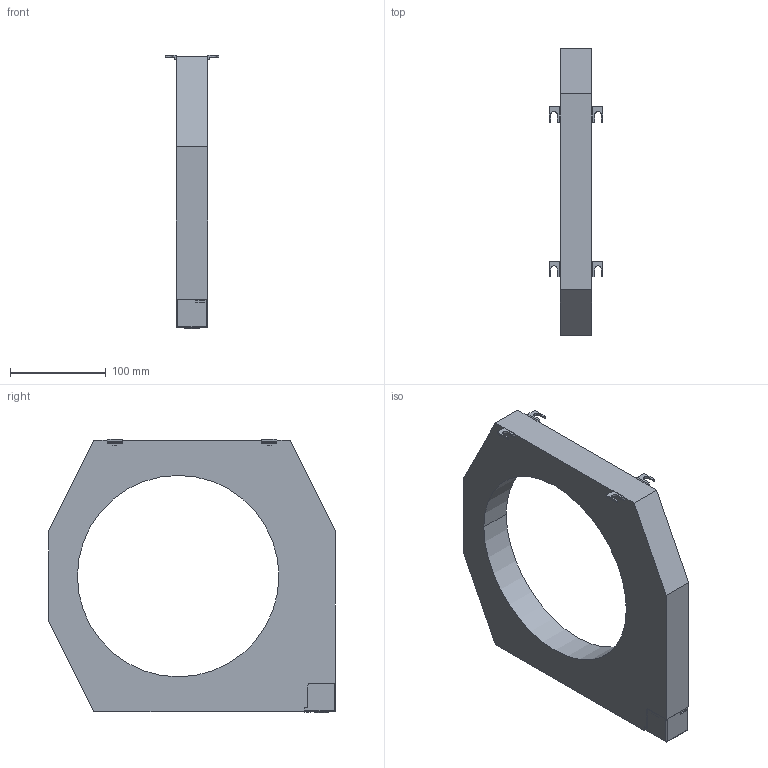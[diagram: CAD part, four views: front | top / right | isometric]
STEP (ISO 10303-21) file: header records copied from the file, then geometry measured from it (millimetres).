
FILE_DESCRIPTION (( 'STEP AP214' ), '1' );
FILE_NAME ('LW-SK10000-210.STEP', '2022-08-31T12:33:51', ( 'CAD-SW' ), ( '' ), 'SwSTEP 2.0', 'SolidWorks 2021', '' );
FILE_SCHEMA (( 'AUTOMOTIVE_DESIGN' ));
Length unit declared in the file: millimetre
Products named in the file (6): 09_0404_00_02_01; 09_0404_00_02; LW-SK10000-210; LW-SK10000-70_R8; LW-SK10000_-210; 09_0404_00_02_02
Assembly tree (5 placements, depth 3):
  LW-SK10000-210
    LW-SK10000-70_R8
    LW-SK10000_-210
    09_0404_00_02
      09_0404_00_02_01
      09_0404_00_02_02
Bounding box: 55.7 x 299 x 284.7 mm (x, y, z)
Volume: 1407096.3 mm3; surface area: 153676.8 mm2
Topology: 4 solids, 4 shells, 404 faces, 1064 edges, 684 vertices
Faces by surface type: plane 228, cylinder 97, cone 38, bspline 29, torus 10, sphere 2
Entity records: 14656 total; most frequent: CARTESIAN_POINT 4034, ORIENTED_EDGE 2108, DIRECTION 1954, EDGE_CURVE 1054, VERTEX_POINT 684, LINE 674, VECTOR 674, AXIS2_PLACEMENT_3D 640
